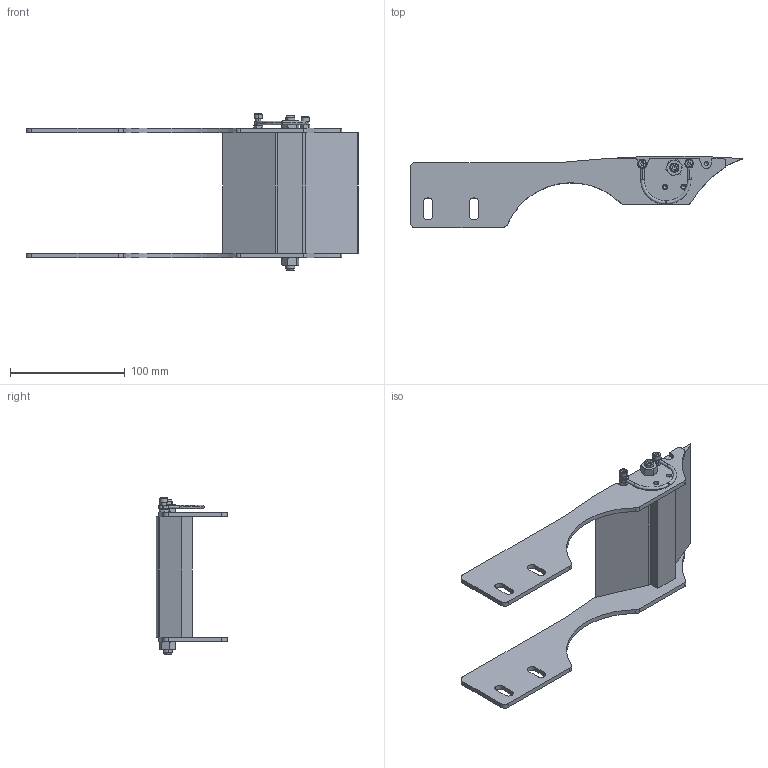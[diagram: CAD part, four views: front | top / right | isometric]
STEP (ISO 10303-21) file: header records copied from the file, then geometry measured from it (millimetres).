
FILE_DESCRIPTION (( 'STEP AP214' ), '1' );
FILE_NAME ('FCTB A105P.step', '2017-04-07T11:06:48', ( '' ), ( '' ), 'SwSTEP 2.0', 'SolidWorks 2016', '' );
FILE_SCHEMA (( 'AUTOMOTIVE_DESIGN' ));
Length unit declared in the file: millimetre
Products named in the file (1): FCTB A105P
Bounding box: 289.89 x 62.3 x 136.77 mm (x, y, z)
Surface area: 88839.2 mm2 (no closed solid volume)
Topology: 0 solids, 16 shells, 453 faces, 1107 edges, 664 vertices
Faces by surface type: plane 180, cylinder 133, cone 124, bspline 8, torus 8
Entity records: 18706 total; most frequent: CARTESIAN_POINT 3049, DIRECTION 2245, ORIENTED_EDGE 2138, EDGE_CURVE 1071, AXIS2_PLACEMENT_3D 868, VERTEX_POINT 664, VECTOR 509, LINE 509
